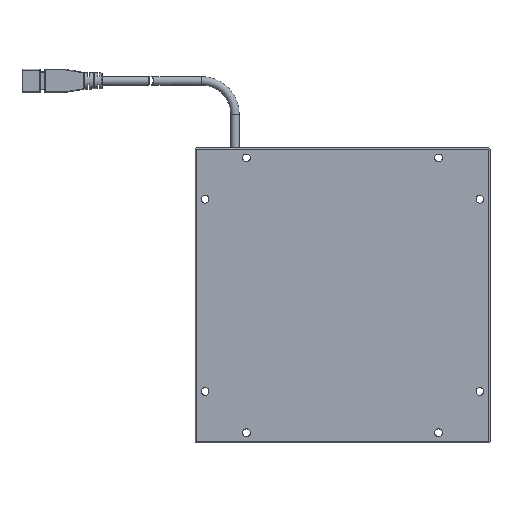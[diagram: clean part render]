
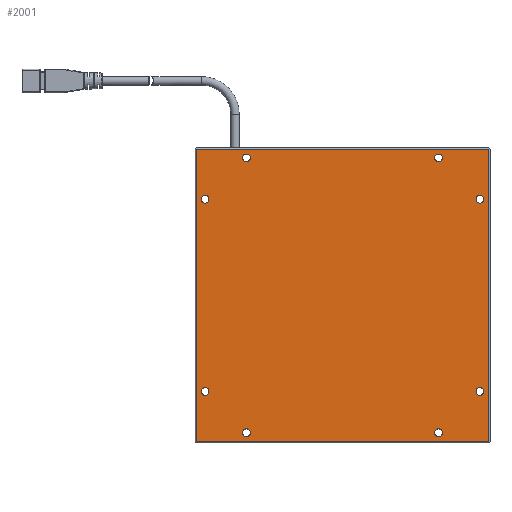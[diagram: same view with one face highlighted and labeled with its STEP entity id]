
A CAD part, front view. The second image highlights one B-rep face of the part: STEP entity #2001.
In plain terms, the highlighted planar face has unit normal (0, -1, 0).
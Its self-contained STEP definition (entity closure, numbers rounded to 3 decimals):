
#1=DIRECTION('',(0.,0.,-1.));
#2=VECTOR('',#1,131.);
#3=CARTESIAN_POINT('',(65.5,0.,65.5));
#4=LINE('',#3,#2);
#5=DIRECTION('',(-1.,0.,0.));
#6=VECTOR('',#5,131.);
#7=CARTESIAN_POINT('',(65.5,0.,-65.5));
#8=LINE('',#7,#6);
#9=DIRECTION('',(0.,0.,1.));
#10=VECTOR('',#9,131.);
#11=CARTESIAN_POINT('',(-65.5,0.,-65.5));
#12=LINE('',#11,#10);
#13=DIRECTION('',(1.,0.,0.));
#14=VECTOR('',#13,131.);
#15=CARTESIAN_POINT('',(-65.5,0.,65.5));
#16=LINE('',#15,#14);
#17=CARTESIAN_POINT('',(61.5,0.,-43.));
#18=DIRECTION('',(0.,-1.,0.));
#19=DIRECTION('',(-1.,0.,0.));
#20=AXIS2_PLACEMENT_3D('',#17,#18,#19);
#22=CARTESIAN_POINT('',(61.5,0.,-43.));
#23=DIRECTION('',(0.,-1.,0.));
#24=DIRECTION('',(1.,0.,0.));
#25=AXIS2_PLACEMENT_3D('',#22,#23,#24);
#27=CARTESIAN_POINT('',(61.5,0.,43.));
#28=DIRECTION('',(0.,-1.,0.));
#29=DIRECTION('',(-1.,0.,0.));
#30=AXIS2_PLACEMENT_3D('',#27,#28,#29);
#32=CARTESIAN_POINT('',(61.5,0.,43.));
#33=DIRECTION('',(0.,-1.,0.));
#34=DIRECTION('',(1.,0.,0.));
#35=AXIS2_PLACEMENT_3D('',#32,#33,#34);
#37=CARTESIAN_POINT('',(-61.5,0.,-43.));
#38=DIRECTION('',(0.,-1.,0.));
#39=DIRECTION('',(-1.,0.,0.));
#40=AXIS2_PLACEMENT_3D('',#37,#38,#39);
#42=CARTESIAN_POINT('',(-61.5,0.,-43.));
#43=DIRECTION('',(0.,-1.,0.));
#44=DIRECTION('',(1.,0.,0.));
#45=AXIS2_PLACEMENT_3D('',#42,#43,#44);
#47=CARTESIAN_POINT('',(-61.5,0.,43.));
#48=DIRECTION('',(0.,-1.,0.));
#49=DIRECTION('',(-1.,0.,0.));
#50=AXIS2_PLACEMENT_3D('',#47,#48,#49);
#52=CARTESIAN_POINT('',(-61.5,0.,43.));
#53=DIRECTION('',(0.,-1.,0.));
#54=DIRECTION('',(1.,0.,0.));
#55=AXIS2_PLACEMENT_3D('',#52,#53,#54);
#57=CARTESIAN_POINT('',(43.,0.,-61.5));
#58=DIRECTION('',(0.,-1.,0.));
#59=DIRECTION('',(-1.,0.,0.));
#60=AXIS2_PLACEMENT_3D('',#57,#58,#59);
#62=CARTESIAN_POINT('',(43.,0.,-61.5));
#63=DIRECTION('',(0.,-1.,0.));
#64=DIRECTION('',(1.,0.,0.));
#65=AXIS2_PLACEMENT_3D('',#62,#63,#64);
#67=CARTESIAN_POINT('',(-43.,0.,-61.5));
#68=DIRECTION('',(0.,-1.,0.));
#69=DIRECTION('',(-1.,0.,0.));
#70=AXIS2_PLACEMENT_3D('',#67,#68,#69);
#72=CARTESIAN_POINT('',(-43.,0.,-61.5));
#73=DIRECTION('',(0.,-1.,0.));
#74=DIRECTION('',(1.,0.,0.));
#75=AXIS2_PLACEMENT_3D('',#72,#73,#74);
#77=CARTESIAN_POINT('',(43.,0.,61.5));
#78=DIRECTION('',(0.,-1.,0.));
#79=DIRECTION('',(1.,0.,0.));
#80=AXIS2_PLACEMENT_3D('',#77,#78,#79);
#82=CARTESIAN_POINT('',(43.,0.,61.5));
#83=DIRECTION('',(0.,-1.,0.));
#84=DIRECTION('',(-1.,0.,0.));
#85=AXIS2_PLACEMENT_3D('',#82,#83,#84);
#87=CARTESIAN_POINT('',(-43.,0.,61.5));
#88=DIRECTION('',(0.,-1.,0.));
#89=DIRECTION('',(1.,0.,0.));
#90=AXIS2_PLACEMENT_3D('',#87,#88,#89);
#92=CARTESIAN_POINT('',(-43.,0.,61.5));
#93=DIRECTION('',(0.,-1.,0.));
#94=DIRECTION('',(-1.,0.,0.));
#95=AXIS2_PLACEMENT_3D('',#92,#93,#94);
#1494=CARTESIAN_POINT('',(65.5,0.,65.5));
#1495=CARTESIAN_POINT('',(65.5,0.,-65.5));
#1496=VERTEX_POINT('',#1494);
#1497=VERTEX_POINT('',#1495);
#1498=CARTESIAN_POINT('',(-65.5,0.,-65.5));
#1499=VERTEX_POINT('',#1498);
#1500=CARTESIAN_POINT('',(-65.5,0.,65.5));
#1501=VERTEX_POINT('',#1500);
#1502=CARTESIAN_POINT('',(59.75,0.,-43.));
#1503=CARTESIAN_POINT('',(63.25,0.,-43.));
#1504=VERTEX_POINT('',#1502);
#1505=VERTEX_POINT('',#1503);
#1506=CARTESIAN_POINT('',(59.75,0.,43.));
#1507=CARTESIAN_POINT('',(63.25,0.,43.));
#1508=VERTEX_POINT('',#1506);
#1509=VERTEX_POINT('',#1507);
#1510=CARTESIAN_POINT('',(-63.25,0.,-43.));
#1511=CARTESIAN_POINT('',(-59.75,0.,-43.));
#1512=VERTEX_POINT('',#1510);
#1513=VERTEX_POINT('',#1511);
#1514=CARTESIAN_POINT('',(-63.25,0.,43.));
#1515=CARTESIAN_POINT('',(-59.75,0.,43.));
#1516=VERTEX_POINT('',#1514);
#1517=VERTEX_POINT('',#1515);
#1518=CARTESIAN_POINT('',(41.25,0.,-61.5));
#1519=CARTESIAN_POINT('',(44.75,0.,-61.5));
#1520=VERTEX_POINT('',#1518);
#1521=VERTEX_POINT('',#1519);
#1522=CARTESIAN_POINT('',(-44.75,0.,-61.5));
#1523=CARTESIAN_POINT('',(-41.25,0.,-61.5));
#1524=VERTEX_POINT('',#1522);
#1525=VERTEX_POINT('',#1523);
#1526=CARTESIAN_POINT('',(44.75,0.,61.5));
#1527=CARTESIAN_POINT('',(41.25,0.,61.5));
#1528=VERTEX_POINT('',#1526);
#1529=VERTEX_POINT('',#1527);
#1530=CARTESIAN_POINT('',(-41.25,0.,61.5));
#1531=CARTESIAN_POINT('',(-44.75,0.,61.5));
#1532=VERTEX_POINT('',#1530);
#1533=VERTEX_POINT('',#1531);
#1938=CARTESIAN_POINT('',(0.,0.,0.));
#1939=DIRECTION('',(0.,1.,0.));
#1940=DIRECTION('',(1.,0.,0.));
#1941=AXIS2_PLACEMENT_3D('',#1938,#1939,#1940);
#1942=PLANE('',#1941);
#1944=ORIENTED_EDGE('',*,*,#1943,.T.);
#1946=ORIENTED_EDGE('',*,*,#1945,.T.);
#1948=ORIENTED_EDGE('',*,*,#1947,.T.);
#1950=ORIENTED_EDGE('',*,*,#1949,.T.);
#1951=EDGE_LOOP('',(#1944,#1946,#1948,#1950));
#1952=FACE_OUTER_BOUND('',#1951,.F.);
#1954=ORIENTED_EDGE('',*,*,#1953,.T.);
#1956=ORIENTED_EDGE('',*,*,#1955,.T.);
#1957=EDGE_LOOP('',(#1954,#1956));
#1958=FACE_BOUND('',#1957,.F.);
#1960=ORIENTED_EDGE('',*,*,#1959,.T.);
#1962=ORIENTED_EDGE('',*,*,#1961,.T.);
#1963=EDGE_LOOP('',(#1960,#1962));
#1964=FACE_BOUND('',#1963,.F.);
#1966=ORIENTED_EDGE('',*,*,#1965,.T.);
#1968=ORIENTED_EDGE('',*,*,#1967,.T.);
#1969=EDGE_LOOP('',(#1966,#1968));
#1970=FACE_BOUND('',#1969,.F.);
#1972=ORIENTED_EDGE('',*,*,#1971,.T.);
#1974=ORIENTED_EDGE('',*,*,#1973,.T.);
#1975=EDGE_LOOP('',(#1972,#1974));
#1976=FACE_BOUND('',#1975,.F.);
#1978=ORIENTED_EDGE('',*,*,#1977,.T.);
#1980=ORIENTED_EDGE('',*,*,#1979,.T.);
#1981=EDGE_LOOP('',(#1978,#1980));
#1982=FACE_BOUND('',#1981,.F.);
#1984=ORIENTED_EDGE('',*,*,#1983,.T.);
#1986=ORIENTED_EDGE('',*,*,#1985,.T.);
#1987=EDGE_LOOP('',(#1984,#1986));
#1988=FACE_BOUND('',#1987,.F.);
#1990=ORIENTED_EDGE('',*,*,#1989,.T.);
#1992=ORIENTED_EDGE('',*,*,#1991,.T.);
#1993=EDGE_LOOP('',(#1990,#1992));
#1994=FACE_BOUND('',#1993,.F.);
#1996=ORIENTED_EDGE('',*,*,#1995,.T.);
#1998=ORIENTED_EDGE('',*,*,#1997,.T.);
#1999=EDGE_LOOP('',(#1996,#1998));
#2000=FACE_BOUND('',#1999,.F.);
#21=CIRCLE('',#20,1.75);
#26=CIRCLE('',#25,1.75);
#31=CIRCLE('',#30,1.75);
#36=CIRCLE('',#35,1.75);
#41=CIRCLE('',#40,1.75);
#46=CIRCLE('',#45,1.75);
#51=CIRCLE('',#50,1.75);
#56=CIRCLE('',#55,1.75);
#61=CIRCLE('',#60,1.75);
#66=CIRCLE('',#65,1.75);
#71=CIRCLE('',#70,1.75);
#76=CIRCLE('',#75,1.75);
#81=CIRCLE('',#80,1.75);
#86=CIRCLE('',#85,1.75);
#91=CIRCLE('',#90,1.75);
#96=CIRCLE('',#95,1.75);
#1943=EDGE_CURVE('',#1496,#1497,#4,.T.);
#1945=EDGE_CURVE('',#1497,#1499,#8,.T.);
#1947=EDGE_CURVE('',#1499,#1501,#12,.T.);
#1949=EDGE_CURVE('',#1501,#1496,#16,.T.);
#1953=EDGE_CURVE('',#1504,#1505,#21,.T.);
#1955=EDGE_CURVE('',#1505,#1504,#26,.T.);
#1959=EDGE_CURVE('',#1508,#1509,#31,.T.);
#1961=EDGE_CURVE('',#1509,#1508,#36,.T.);
#1965=EDGE_CURVE('',#1512,#1513,#41,.T.);
#1967=EDGE_CURVE('',#1513,#1512,#46,.T.);
#1971=EDGE_CURVE('',#1516,#1517,#51,.T.);
#1973=EDGE_CURVE('',#1517,#1516,#56,.T.);
#1977=EDGE_CURVE('',#1520,#1521,#61,.T.);
#1979=EDGE_CURVE('',#1521,#1520,#66,.T.);
#1983=EDGE_CURVE('',#1524,#1525,#71,.T.);
#1985=EDGE_CURVE('',#1525,#1524,#76,.T.);
#1989=EDGE_CURVE('',#1528,#1529,#81,.T.);
#1991=EDGE_CURVE('',#1529,#1528,#86,.T.);
#1995=EDGE_CURVE('',#1532,#1533,#91,.T.);
#1997=EDGE_CURVE('',#1533,#1532,#96,.T.);
#2001=ADVANCED_FACE('',(#1952,#1958,#1964,#1970,#1976,#1982,#1988,#1994,#2000),
#1942,.F.);
